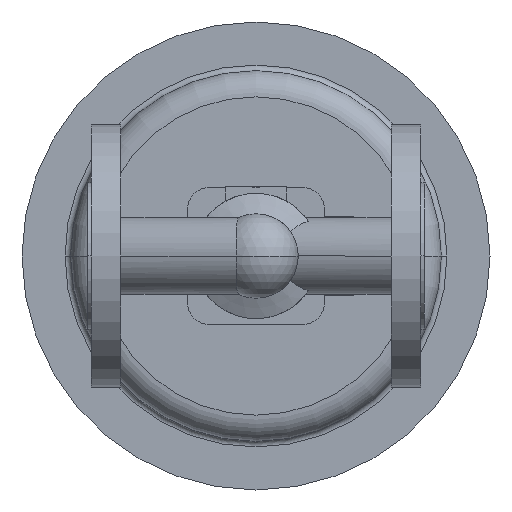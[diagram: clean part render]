
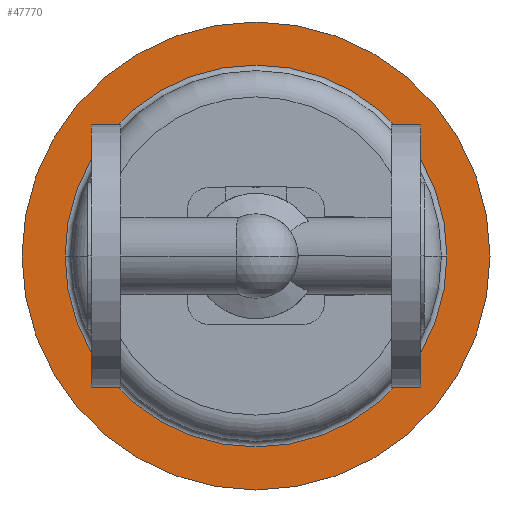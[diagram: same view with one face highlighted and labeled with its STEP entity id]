
A CAD part, front view. The second image highlights one B-rep face of the part: STEP entity #47770.
In plain terms, the highlighted planar face has unit normal (0, -1, 0).
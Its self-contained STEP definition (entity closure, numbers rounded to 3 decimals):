
#32670=CARTESIAN_POINT('',(-35.,383.5,0.));
#32680=VERTEX_POINT('',#32670);
#32840=CARTESIAN_POINT('',(215.,383.5,0.));
#32850=VERTEX_POINT('',#32840);
#32880=CARTESIAN_POINT('',(90.,383.5,0.));
#32890=DIRECTION('',(0.,1.,0.));
#32900=DIRECTION('',(1.,0.,0.));
#32910=AXIS2_PLACEMENT_3D('',#32880,#32890,#32900);
#32920=CIRCLE('',#32910,125.);
#32930=EDGE_CURVE('',#32680,#32850,#32920,.T.);
#33030=CARTESIAN_POINT('',(90.,383.5,0.));
#33040=DIRECTION('',(0.,1.,0.));
#33050=DIRECTION('',(1.,0.,0.));
#33060=AXIS2_PLACEMENT_3D('',#33030,#33040,#33050);
#33070=CIRCLE('',#33060,102.);
#33080=CARTESIAN_POINT('',(90.,383.5,-102.));
#33090=VERTEX_POINT('',#33080);
#33100=CARTESIAN_POINT('',(-12.,383.5,0.));
#33110=VERTEX_POINT('',#33100);
#33120=EDGE_CURVE('',#33090,#33110,#33070,.T.);
#33370=CARTESIAN_POINT('',(192.,383.5,0.));
#33380=VERTEX_POINT('',#33370);
#33410=EDGE_CURVE('',#33380,#33090,#33070,.T.);
#47610=CARTESIAN_POINT('',(203.5,383.5,0.));
#47620=DIRECTION('',(0.,-1.,0.));
#47630=DIRECTION('',(-1.,0.,0.));
#47640=AXIS2_PLACEMENT_3D('',#47610,#47620,#47630);
#47650=PLANE('',#47640);
#47660=EDGE_CURVE('',#32850,#32680,#32920,.T.);
#47670=ORIENTED_EDGE('',*,*,#47660,.F.);
#47680=ORIENTED_EDGE('',*,*,#32930,.F.);
#47690=EDGE_LOOP('',(#47680,#47670));
#47700=FACE_OUTER_BOUND('',#47690,.T.);
#47710=EDGE_CURVE('',#33110,#33380,#33070,.T.);
#47720=ORIENTED_EDGE('',*,*,#47710,.T.);
#47730=ORIENTED_EDGE('',*,*,#33120,.T.);
#47740=ORIENTED_EDGE('',*,*,#33410,.T.);
#47750=EDGE_LOOP('',(#47740,#47730,#47720));
#47760=FACE_BOUND('',#47750,.T.);
#47770=ADVANCED_FACE('',(#47700,#47760),#47650,.T.);
